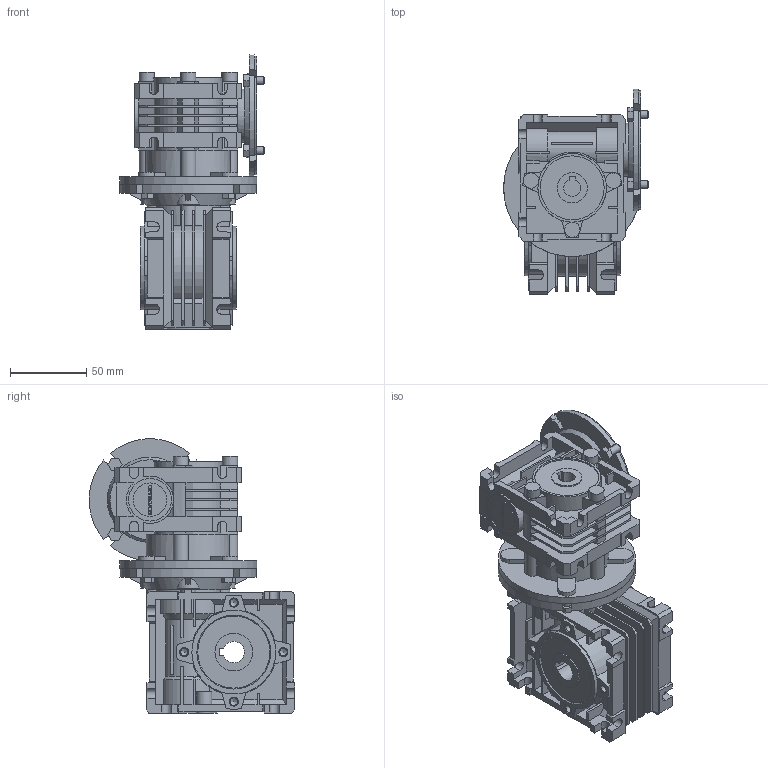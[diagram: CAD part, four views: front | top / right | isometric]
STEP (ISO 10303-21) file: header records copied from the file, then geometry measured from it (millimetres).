
FILE_DESCRIPTION(/* description */ ('STEP AP214'),/* implementation_level */ '2;1');
FILE_NAME(/* name */ 'NMRV-NMRV025-030100 (10x10)112114NO11NO00NO---(--------)',/* time_stamp */ '2024-10-18T08:47:52+02:00',/* author */ ('License CC BY-ND 4.0'),/* organization */ ('CADENAS'),/* preprocessor_version */ 'ST-DEVELOPER v19.3',/* originating_system */ 'PARTsolutions',/* authorisation */ ' ');
FILE_SCHEMA (('AUTOMOTIVE_DESIGN {1 0 10303 214 3 1 1}'));
Length unit declared in the file: millimetre
Products named in the file (14): NMRV-NMRV025-030100 (10x10)112114NO11NO00NO---(--------); 025-030100 (10x10)11211114No11No00NO---(--------)-d; 025-030100 (10x10)112114No11No00NO---d1; 025-030100 (10x10)112114No11No00T0561-d1; Gear unit 30; 030-14 (63)alc-n; VB 030-09 (9); Gear unit 25; 025-11 (50)alc-n; FT 025-030; 30-63 B14; VB 025-09 (9); 25-56 B14; Screw - M6x54
Assembly tree (16 placements, depth 2):
  NMRV-NMRV025-030100 (10x10)112114NO11NO00NO---(--------)
    025-030100 (10x10)11211114No11No00NO---(--------)-d
    025-030100 (10x10)112114No11No00NO---d1
    025-030100 (10x10)112114No11No00T0561-d1  x2
    Gear unit 30
    030-14 (63)alc-n
    VB 030-09 (9)
    Gear unit 25
    025-11 (50)alc-n
    FT 025-030
    30-63 B14
    VB 025-09 (9)
    25-56 B14
    Screw - M6x54  x3
Bounding box: 95 x 134.88 x 179.88 mm (x, y, z)
Volume: 615475.9 mm3; surface area: 209213.8 mm2
Topology: 12 solids, 19 shells, 1407 faces, 3769 edges, 2471 vertices
Faces by surface type: plane 1068, cylinder 288, cone 51
Full cylindrical faces by diameter (mm): 2.031 x3, 3.545 x3, 4.65 x3, 4.917 x8, 5 x8, 6 x3, 6.5 x3, 10 x7, 16 x2, 19 x2, 19.8 x2, 22 x1, 24.8 x2, 28 x1, 30 x4, 32 x1, 35 x1, 37 x1, 38 x1, 42 x1, 45 x3, 50 x1, 55 x2, 60 x2, 90 x1
Entity records: 52603 total; most frequent: CARTESIAN_POINT 7856, ORIENTED_EDGE 7274, DIRECTION 7094, EDGE_CURVE 3637, LINE 2816, VECTOR 2816, VERTEX_POINT 2442, AXIS2_PLACEMENT_3D 2139
